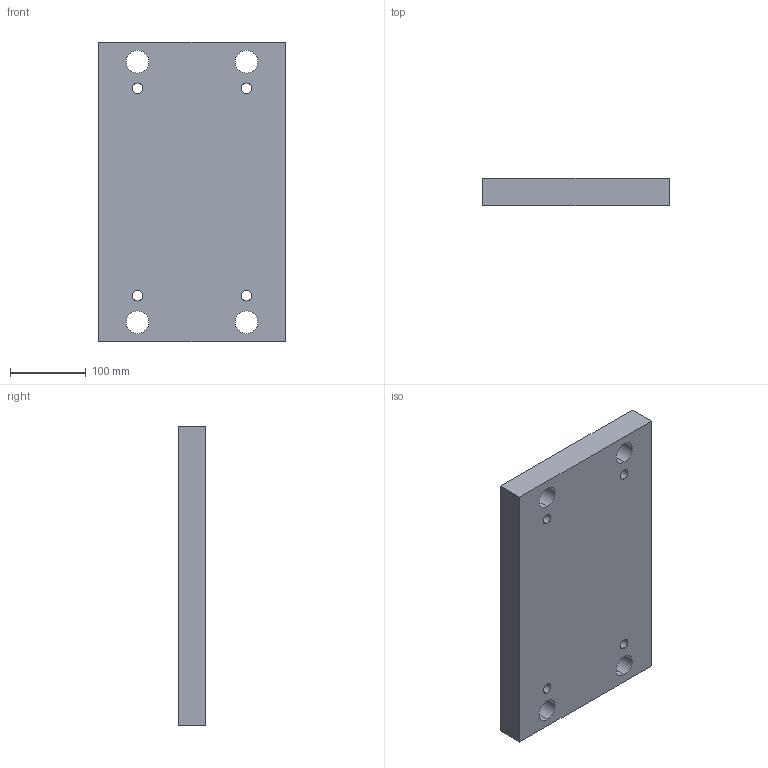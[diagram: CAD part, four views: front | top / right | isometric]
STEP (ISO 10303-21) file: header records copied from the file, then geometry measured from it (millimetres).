
FILE_DESCRIPTION (( 'STEP AP214' ), '1' );
FILE_NAME ('L10_196x396x036.STEP', '2018-10-05T01:14:19', ( '' ), ( '' ), 'SwSTEP 2.0', 'SolidWorks 2014', '' );
FILE_SCHEMA (( 'AUTOMOTIVE_DESIGN' ));
Length unit declared in the file: millimetre
Products named in the file (1): L10_196x396x036
Bounding box: 246 x 36 x 396 mm (x, y, z)
Volume: 3373087.6 mm3; surface area: 255243.4 mm2
Topology: 1 solids, 1 shells, 34 faces, 84 edges, 56 vertices
Faces by surface type: cylinder 24, plane 10
Entity records: 1102 total; most frequent: DIRECTION 202, CARTESIAN_POINT 175, ORIENTED_EDGE 168, EDGE_CURVE 84, AXIS2_PLACEMENT_3D 83, VERTEX_POINT 56, EDGE_LOOP 54, CIRCLE 48
